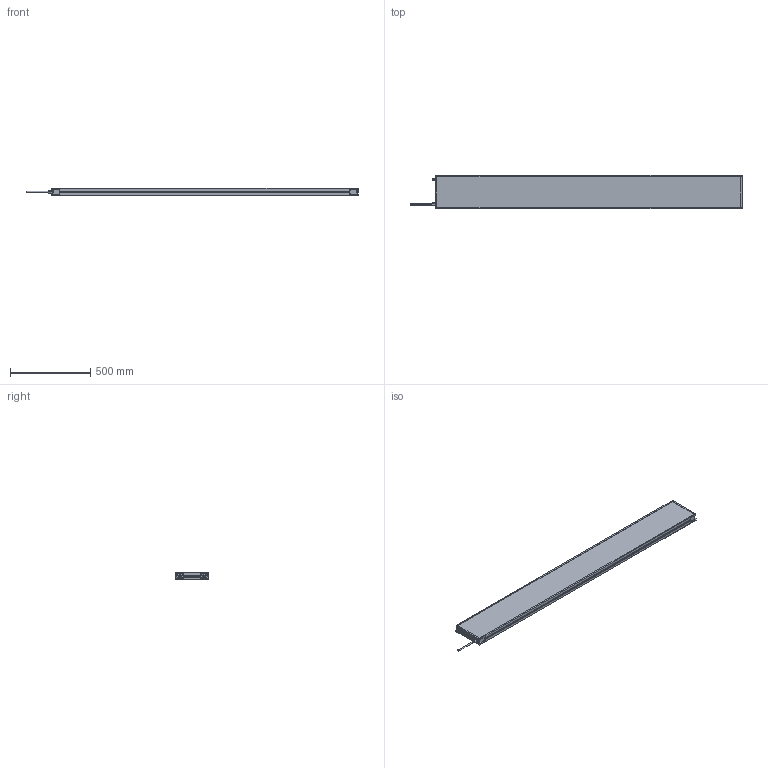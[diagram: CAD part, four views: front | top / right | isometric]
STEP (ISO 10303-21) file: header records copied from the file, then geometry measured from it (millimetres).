
FILE_DESCRIPTION (( 'STEP AP214' ), '1' );
FILE_NAME ('MBACK-xxxx-xxx-M1A2_CLIENT200x1900.STEP', '2022-04-01T11:30:38', ( '' ), ( '' ), 'SwSTEP 2.0', 'SolidWorks 2020', '' );
FILE_SCHEMA (( 'AUTOMOTIVE_DESIGN' ));
Length unit declared in the file: millimetre
Products named in the file (1): MBACK-xxxx-xxx-M1A2_CLIENT200x1900
Bounding box: 2067.4 x 208 x 45.5 mm (x, y, z)
Volume: 16459157.5 mm3; surface area: 1080831.7 mm2
Topology: 1 solids, 1 shells, 470 faces, 1210 edges, 804 vertices
Faces by surface type: plane 265, cylinder 117, bspline 80, cone 8
Entity records: 18046 total; most frequent: CARTESIAN_POINT 6837, ORIENTED_EDGE 2420, DIRECTION 2082, EDGE_CURVE 1210, VERTEX_POINT 804, VECTOR 800, LINE 800, AXIS2_PLACEMENT_3D 641
